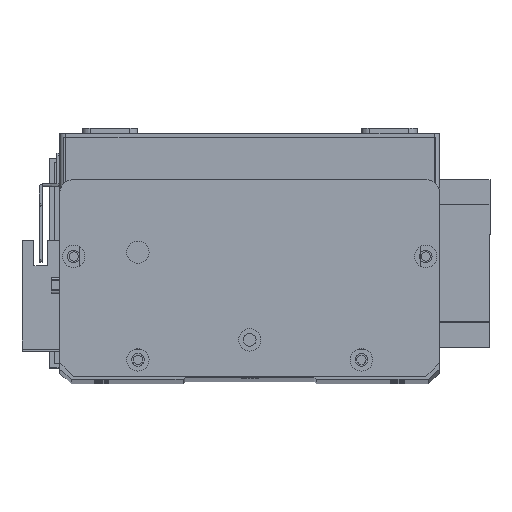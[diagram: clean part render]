
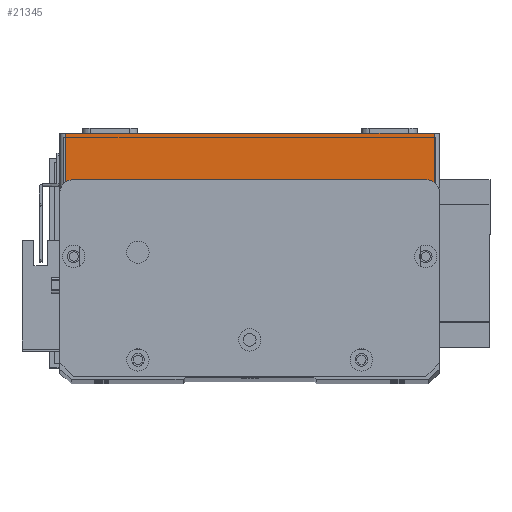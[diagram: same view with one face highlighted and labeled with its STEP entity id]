
A CAD part, top view. The second image highlights one B-rep face of the part: STEP entity #21345.
In plain terms, the highlighted planar face has unit normal (0, 0, 1) as drawn and (0, -1, 0) by its records, which use the part's own axes.
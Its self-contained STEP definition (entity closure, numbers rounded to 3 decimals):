
#411 = EDGE_CURVE ( 'NONE', #5411, #16502, #2536, .T. ) ;
#1370 = CARTESIAN_POINT ( 'NONE',  ( 0., 0., 19.5 ) ) ;
#2536 = LINE ( 'NONE', #21316, #21104 ) ;
#2771 = CARTESIAN_POINT ( 'NONE',  ( 134., 0., 19.5 ) ) ;
#3621 = DIRECTION ( 'NONE',  ( 0., 1., 0. ) ) ;
#4257 = ORIENTED_EDGE ( 'NONE', *, *, #411, .T. ) ;
#5267 = DIRECTION ( 'NONE',  ( 1., 0., 0. ) ) ;
#5411 = VERTEX_POINT ( 'NONE', #9142 ) ;
#5751 = VECTOR ( 'NONE', #12205, 1000. ) ;
#7396 = VERTEX_POINT ( 'NONE', #2771 ) ;
#7526 = DIRECTION ( 'NONE',  ( 1., 0., 0. ) ) ;
#9142 = CARTESIAN_POINT ( 'NONE',  ( 2., 0., 19.5 ) ) ;
#10295 = PLANE ( 'NONE',  #28072 ) ;
#12031 = LINE ( 'NONE', #23232, #18006 ) ;
#12106 = FACE_OUTER_BOUND ( 'NONE', #17469, .T. ) ;
#12205 = DIRECTION ( 'NONE',  ( 0., 0., 1. ) ) ;
#12429 = LINE ( 'NONE', #25605, #5751 ) ;
#12642 = ORIENTED_EDGE ( 'NONE', *, *, #18692, .T. ) ;
#16502 = VERTEX_POINT ( 'NONE', #23984 ) ;
#17469 = EDGE_LOOP ( 'NONE', ( #21946, #4257, #19121, #12642 ) ) ;
#18006 = VECTOR ( 'NONE', #7526, 1000. ) ;
#18692 = EDGE_CURVE ( 'NONE', #29027, #7396, #12429, .T. ) ;
#18698 = CARTESIAN_POINT ( 'NONE',  ( 0., 0., 19.5 ) ) ;
#19121 = ORIENTED_EDGE ( 'NONE', *, *, #23547, .T. ) ;
#19304 = DIRECTION ( 'NONE',  ( 0., 0., 1. ) ) ;
#20933 = LINE ( 'NONE', #18698, #24802 ) ;
#21104 = VECTOR ( 'NONE', #21421, 1000. ) ;
#21316 = CARTESIAN_POINT ( 'NONE',  ( 2., 0., 19.5 ) ) ;
#21345 = ADVANCED_FACE ( 'NONE', ( #12106 ), #10295, .F. ) ;
#21421 = DIRECTION ( 'NONE',  ( 0., 0., -1. ) ) ;
#21946 = ORIENTED_EDGE ( 'NONE', *, *, #28305, .F. ) ;
#23232 = CARTESIAN_POINT ( 'NONE',  ( 0., 0., 0. ) ) ;
#23547 = EDGE_CURVE ( 'NONE', #16502, #29027, #12031, .T. ) ;
#23984 = CARTESIAN_POINT ( 'NONE',  ( 2., 0., 0. ) ) ;
#24802 = VECTOR ( 'NONE', #5267, 1000. ) ;
#25605 = CARTESIAN_POINT ( 'NONE',  ( 134., 0., 19.5 ) ) ;
#27750 = CARTESIAN_POINT ( 'NONE',  ( 134., 0., 0. ) ) ;
#28072 = AXIS2_PLACEMENT_3D ( 'NONE', #1370, #3621, #19304 ) ;
#28305 = EDGE_CURVE ( 'NONE', #5411, #7396, #20933, .T. ) ;
#29027 = VERTEX_POINT ( 'NONE', #27750 ) ;
